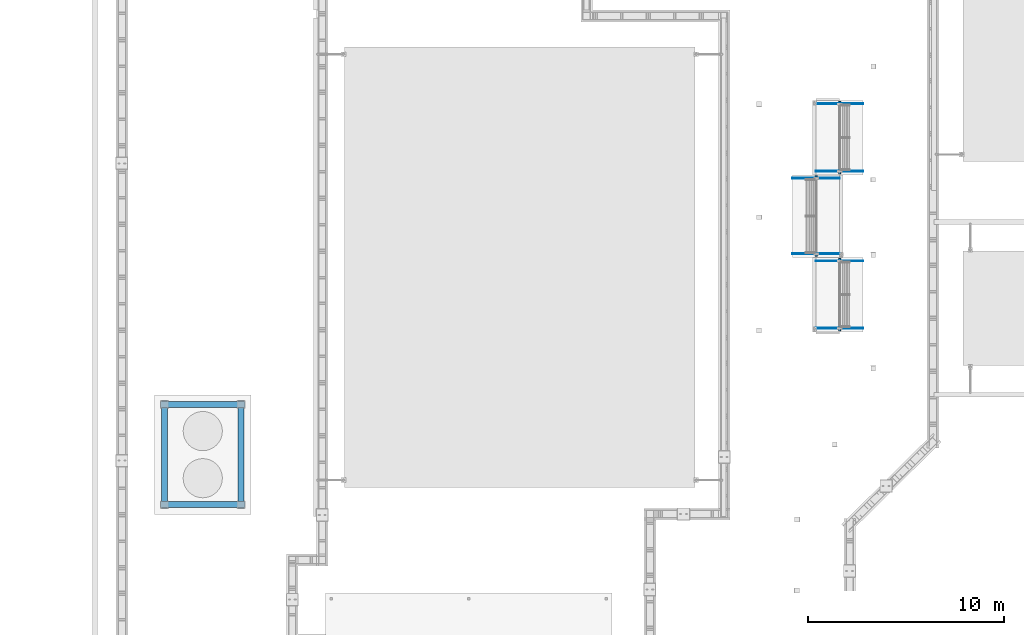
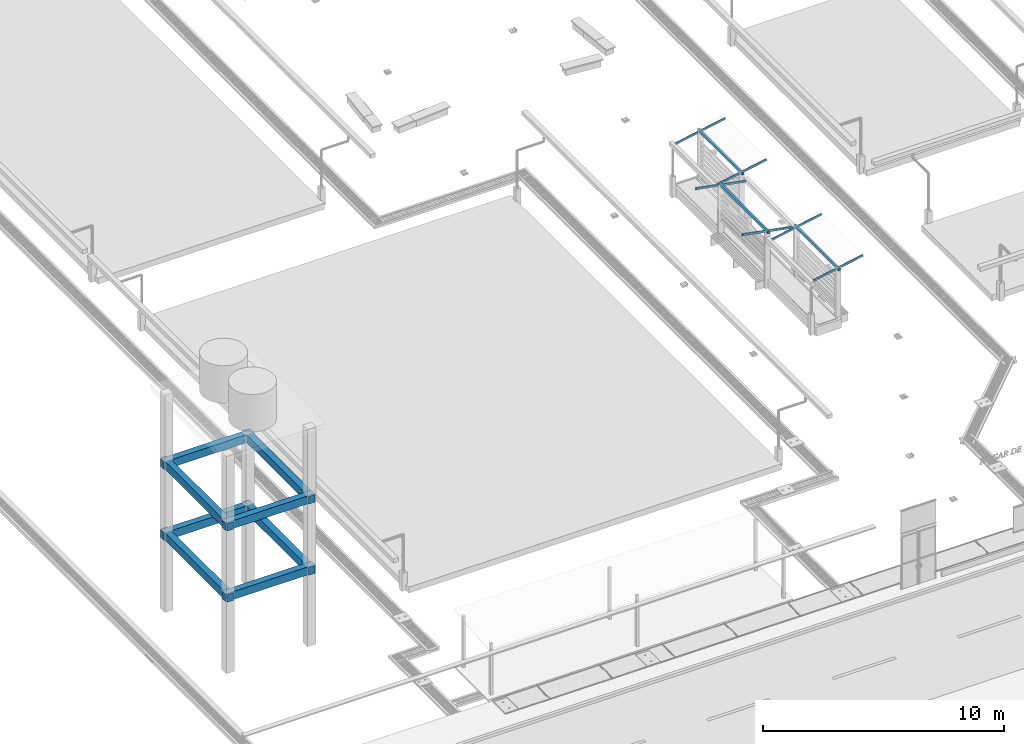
# One storey, part 9 of 90: 17 beams.
"""IFC2X3 building model written with IfcOpenShell, lengths in metres."""

import ifcopenshell
import ifcopenshell.guid

model = None  # the IFC model being written
_history = None  # IfcOwnerHistory: only IFC2X3 demands one
_inside = {}  # id of a spatial element -> (the spatial element, [elements in it])
_under = {}  # id of a project, library or spatial element -> (it, [spatial elements below it])
_declared = {}  # id of a project -> (the project, [libraries it declares])
_typed = {}  # id of a type object -> (the type object, [elements of that type])
_made_of = {}  # id of a material, layer set ... -> (it, [elements and type objects made of it])


def new_model(schema):
    """Start an empty IFC model of exactly this schema.

    Asked for "IFC4X3", IfcOpenShell would pick the latest addendum, in which some entities
    have other attributes; the version numbers below select the first issue.
    IFC2X3 requires an IfcOwnerHistory on every rooted entity: one is made here for all.
    """
    global model, _history
    if schema == "IFC4X3":
        model = ifcopenshell.file(schema_version=(4, 3, 0, 0))
    else:
        model = ifcopenshell.file(schema=schema)
    _inside.clear()
    _under.clear()
    _declared.clear()
    _typed.clear()
    _made_of.clear()
    _history = None
    if model.schema == "IFC2X3":
        org = make("IfcOrganization", Name="unknown")
        user = make(
            "IfcPersonAndOrganization",
            ThePerson=make("IfcPerson", FamilyName="unknown"),
            TheOrganization=org,
        )
        app = make(
            "IfcApplication",
            ApplicationDeveloper=org,
            Version="unknown",
            ApplicationFullName="unknown",
            ApplicationIdentifier="unknown",
        )
        _history = make(
            "IfcOwnerHistory",
            OwningUser=user,
            OwningApplication=app,
            ChangeAction="ADDED",
            CreationDate=0,
        )
    return model


def make(cls, **values):
    """One entity of the class cls with the attributes given. An attribute that is None is left unset."""
    return model.create_entity(
        cls, **{name: value for name, value in values.items() if value is not None}
    )


def rooted(cls, **values):
    """An entity with a GlobalId (a new one), such as an element, a storey or a relation."""
    return make(cls, GlobalId=ifcopenshell.guid.new(), OwnerHistory=_history, **values)


def si_unit(unit_type, name, prefix=None):
    """IfcSIUnit, for example si_unit("LENGTHUNIT", "METRE", prefix="MILLI")."""
    return make("IfcSIUnit", UnitType=unit_type, Prefix=prefix, Name=name)


def assignment(units):
    """IfcUnitAssignment: the units of a project."""
    return None if units is None else make("IfcUnitAssignment", Units=units)


def point(xyz):
    """IfcCartesianPoint."""
    return None if xyz is None else make("IfcCartesianPoint", Coordinates=xyz)


def direction(xyz):
    """IfcDirection."""
    return None if xyz is None else make("IfcDirection", DirectionRatios=xyz)


def frame(location, z_axis=None, x_axis=None):
    """IfcAxis2Placement3D, a coordinate frame: its origin and axes. An axis left out is left unset."""
    return make(
        "IfcAxis2Placement3D",
        Location=point(location),
        Axis=direction(z_axis),
        RefDirection=direction(x_axis),
    )


def origin():
    """The frame at (0, 0, 0) with its axes left unset."""
    return frame((0.0, 0.0, 0.0))


def origin_with_axes():
    """The frame at (0, 0, 0) with the z axis (0, 0, 1) and the x axis (1, 0, 0) written out."""
    return frame((0.0, 0.0, 0.0), z_axis=(0.0, 0.0, 1.0), x_axis=(1.0, 0.0, 0.0))


def place(relative_to, where):
    """IfcLocalPlacement: puts the frame where relative to a parent placement (None: the world)."""
    return make(
        "IfcLocalPlacement", PlacementRelTo=relative_to, RelativePlacement=where
    )


def context(
    kind, dimensions, precision=None, world=None, true_north=None, identifier=None
):
    """IfcGeometricRepresentationContext, for example the 3D "Model" context."""
    return make(
        "IfcGeometricRepresentationContext",
        ContextIdentifier=identifier,
        ContextType=kind,
        CoordinateSpaceDimension=dimensions,
        Precision=precision,
        WorldCoordinateSystem=world,
        TrueNorth=true_north,
    )


def subcontext(parent, identifier, kind, view, scale=None):
    """IfcGeometricRepresentationSubContext, for example "Body" below "Model"."""
    return make(
        "IfcGeometricRepresentationSubContext",
        ContextIdentifier=identifier,
        ContextType=kind,
        ParentContext=parent,
        TargetScale=scale,
        TargetView=view,
    )


def project(units=None, contexts=None):
    """IfcProject with its units and contexts."""
    return rooted(
        "IfcProject",
        Name="project",
        RepresentationContexts=contexts,
        UnitsInContext=assignment(units),
    )


def spatial(cls, under=None, at=None, **own):
    """A site, building, storey or space (cls), placed at a placement, below another one or the project."""
    s = rooted(cls, ObjectPlacement=at, **own)
    if under is not None:
        _under.setdefault(under.id(), (under, []))[1].append(s)
    return s


def faces_of(points, faces, orient=None, outer=None):
    """IfcFace entities. A face is a list of loops; a loop is a list of indices into points, from 0.

    orient and outer hold one flag for each loop. By default every Orientation is true, the
    first loop of a face is its IfcFaceOuterBound and the others are IfcFaceBound.
    """
    made = []
    for i, loops in enumerate(faces):
        bounds = []
        for j, loop in enumerate(loops):
            is_outer = j == 0 if outer is None else outer[i][j]
            bounds.append(
                make(
                    "IfcFaceOuterBound" if is_outer else "IfcFaceBound",
                    Bound=make("IfcPolyLoop", Polygon=[points[k] for k in loop]),
                    Orientation=True if orient is None else orient[i][j],
                )
            )
        made.append(make("IfcFace", Bounds=bounds))
    return made


def faceted_brep(points, faces, orient=None, outer=None, voids=None):
    """IfcFacetedBrep: a solid bounded by flat faces; with voids (closed shells), ...WithVoids."""
    shared = [point(p) for p in points]
    hull = make("IfcClosedShell", CfsFaces=faces_of(shared, faces, orient, outer))
    if voids is None:
        return make("IfcFacetedBrep", Outer=hull)
    return make(
        "IfcFacetedBrepWithVoids",
        Outer=hull,
        Voids=[
            make(cls, CfsFaces=faces_of(shared, fs, o, b)) for cls, fs, o, b in voids
        ],
    )


def shape(context_of_items, identifier, shape_type, items):
    """IfcShapeRepresentation: the items that make up one representation, for example the "Body"."""
    return make(
        "IfcShapeRepresentation",
        ContextOfItems=context_of_items,
        RepresentationIdentifier=identifier,
        RepresentationType=shape_type,
        Items=items,
    )


def made_of(thing, what):
    """Note that an element or type object is made of a material, layer set ...; save() writes the relation."""
    if what is not None:
        _made_of.setdefault(what.id(), (what, []))[1].append(thing)
    return thing


def element(
    cls,
    number,
    at=None,
    inside=None,
    cuts=None,
    type_object=None,
    material=None,
    context=None,
    identifier="Body",
    shape_type=None,
    held_by="IfcProductDefinitionShape",
    body=None,
    shapes=None,
    **own,
):
    """One element of the class cls, such as IfcWall. Its Tag is "e" and its number.

    at: its placement. inside: the storey or other place that contains it. cuts: it is an
    opening in that element (IfcRelVoidsElement). A single representation is given by context,
    identifier, shape_type and body (its items); several are given by shapes. held_by: the class
    of the entity that holds the representations. save() writes the other relations.
    """
    e = rooted(cls, Tag="e%d" % number, ObjectPlacement=at, **own)
    if body is not None:
        shapes = [shape(context, identifier, shape_type, body)]
    if shapes is not None:
        e.Representation = make(held_by, Representations=shapes)
    if inside is not None:
        _inside.setdefault(inside.id(), (inside, []))[1].append(e)
    if cuts is not None:
        rooted(
            "IfcRelVoidsElement", RelatingBuildingElement=cuts, RelatedOpeningElement=e
        )
    if type_object is not None:
        _typed.setdefault(type_object.id(), (type_object, []))[1].append(e)
    return made_of(e, material)


def aggregate(whole, parts):
    """IfcRelAggregates: a whole, such as a stair, and the parts it consists of."""
    return rooted("IfcRelAggregates", RelatingObject=whole, RelatedObjects=parts)


def save(model, path):
    """Write the relations noted so far, then the file.

    IfcRelAggregates (storeys below a building ...), IfcRelContainedInSpatialStructure (elements
    in a storey), IfcRelDefinesByType, IfcRelAssociatesMaterial and IfcRelDeclares: one each for
    every whole, place, type object, material and project.
    """
    for whole, parts in _under.values():
        aggregate(whole, parts)
    for where, things in _inside.values():
        rooted(
            "IfcRelContainedInSpatialStructure",
            RelatedElements=things,
            RelatingStructure=where,
        )
    for kind, things in _typed.values():
        rooted("IfcRelDefinesByType", RelatedObjects=things, RelatingType=kind)
    for what, things in _made_of.values():
        rooted("IfcRelAssociatesMaterial", RelatedObjects=things, RelatingMaterial=what)
    for by, libraries in _declared.values():
        rooted("IfcRelDeclares", RelatingContext=by, RelatedDefinitions=libraries)
    model.write(path)


model = new_model("IFC2X3")

# Units and contexts
model_context = context("Model", 3, precision=1e-05, world=origin_with_axes())
body_context = subcontext(model_context, "Body", "Model", "MODEL_VIEW")
ifc_project = project(units=[si_unit("LENGTHUNIT", "METRE"), si_unit("AREAUNIT", "SQUARE_METRE"), si_unit("VOLUMEUNIT", "CUBIC_METRE"), si_unit("PLANEANGLEUNIT", "RADIAN")], contexts=[model_context])

# Site, building, storey
site_placement = place(None, origin_with_axes())
site = spatial("IfcSite", under=ifc_project, at=site_placement, Name="Predio Los Mangos - Morales, San Martín", CompositionType="ELEMENT")
building_placement = place(site_placement, origin())
building = spatial("IfcBuilding", under=site, at=building_placement, Name="Hogar de Refugio Temporal", CompositionType="ELEMENT")
storey_placement = place(building_placement, origin())
storey = spatial("IfcBuildingStorey", under=building, at=storey_placement, Name="NIVEL 1 (NPT +0.00)", CompositionType="ELEMENT", Elevation=0.0)

# Beams
beam_1_placement = place(storey_placement, origin())
element("IfcBeam", 1, at=beam_1_placement, inside=storey, Name="tanque_viga", ObjectType="Viga", context=body_context, shape_type="Brep", body=[
    faceted_brep([(4.4, 25.25, 3.6), (4.4, 25.55, 3.6), (8.7, 25.55, 3.6), (8.7, 25.25, 3.6), (4.4, 25.25, 4.0), (8.7, 25.25, 4.0), (8.7, 25.55, 4.0), (4.4, 25.55, 4.0)], [[[0, 1, 2, 3]], [[4, 5, 6, 7]], [[0, 3, 5, 4]], [[3, 2, 6, 5]], [[2, 1, 7, 6]], [[1, 0, 4, 7]]]),
])
beam_2_placement = place(storey_placement, origin())
element("IfcBeam", 2, at=beam_2_placement, inside=storey, Name="tanque_viga", ObjectType="Viga", context=body_context, shape_type="Brep", body=[
    faceted_brep([(4.4, 30.35, 3.6), (4.4, 30.65, 3.6), (8.7, 30.65, 3.6), (8.7, 30.35, 3.6), (4.4, 30.35, 4.0), (8.7, 30.35, 4.0), (8.7, 30.65, 4.0), (4.4, 30.65, 4.0)], [[[0, 1, 2, 3]], [[4, 5, 6, 7]], [[0, 3, 5, 4]], [[3, 2, 6, 5]], [[2, 1, 7, 6]], [[1, 0, 4, 7]]]),
])
beam_3_placement = place(storey_placement, origin())
element("IfcBeam", 3, at=beam_3_placement, inside=storey, Name="tanque_viga", ObjectType="Viga", context=body_context, shape_type="Brep", body=[
    faceted_brep([(4.45, 25.2, 3.6), (4.45, 30.7, 3.6), (4.75, 30.7, 3.6), (4.75, 25.2, 3.6), (4.45, 25.2, 4.0), (4.75, 25.2, 4.0), (4.75, 30.7, 4.0), (4.45, 30.7, 4.0)], [[[0, 1, 2, 3]], [[4, 5, 6, 7]], [[0, 3, 5, 4]], [[3, 2, 6, 5]], [[2, 1, 7, 6]], [[1, 0, 4, 7]]]),
])
beam_4_placement = place(storey_placement, origin())
element("IfcBeam", 4, at=beam_4_placement, inside=storey, Name="tanque_viga", ObjectType="Viga", context=body_context, shape_type="Brep", body=[
    faceted_brep([(8.35, 25.2, 3.6), (8.35, 30.7, 3.6), (8.65, 30.7, 3.6), (8.65, 25.2, 3.6), (8.35, 25.2, 4.0), (8.65, 25.2, 4.0), (8.65, 30.7, 4.0), (8.35, 30.7, 4.0)], [[[0, 1, 2, 3]], [[4, 5, 6, 7]], [[0, 3, 5, 4]], [[3, 2, 6, 5]], [[2, 1, 7, 6]], [[1, 0, 4, 7]]]),
])
beam_5_placement = place(storey_placement, origin())
element("IfcBeam", 5, at=beam_5_placement, inside=storey, Name="tanque_viga", ObjectType="Viga", context=body_context, shape_type="Brep", body=[
    faceted_brep([(4.4, 25.25, 7.2), (4.4, 25.55, 7.2), (8.7, 25.55, 7.2), (8.7, 25.25, 7.2), (4.4, 25.25, 7.6), (8.7, 25.25, 7.6), (8.7, 25.55, 7.6), (4.4, 25.55, 7.6)], [[[0, 1, 2, 3]], [[4, 5, 6, 7]], [[0, 3, 5, 4]], [[3, 2, 6, 5]], [[2, 1, 7, 6]], [[1, 0, 4, 7]]]),
])
beam_6_placement = place(storey_placement, origin())
element("IfcBeam", 6, at=beam_6_placement, inside=storey, Name="tanque_viga", ObjectType="Viga", context=body_context, shape_type="Brep", body=[
    faceted_brep([(4.4, 30.35, 7.2), (4.4, 30.65, 7.2), (8.7, 30.65, 7.2), (8.7, 30.35, 7.2), (4.4, 30.35, 7.6), (8.7, 30.35, 7.6), (8.7, 30.65, 7.6), (4.4, 30.65, 7.6)], [[[0, 1, 2, 3]], [[4, 5, 6, 7]], [[0, 3, 5, 4]], [[3, 2, 6, 5]], [[2, 1, 7, 6]], [[1, 0, 4, 7]]]),
])
beam_7_placement = place(storey_placement, origin())
element("IfcBeam", 7, at=beam_7_placement, inside=storey, Name="tanque_viga", ObjectType="Viga", context=body_context, shape_type="Brep", body=[
    faceted_brep([(4.45, 25.2, 7.2), (4.45, 30.7, 7.2), (4.75, 30.7, 7.2), (4.75, 25.2, 7.2), (4.45, 25.2, 7.6), (4.75, 25.2, 7.6), (4.75, 30.7, 7.6), (4.45, 30.7, 7.6)], [[[0, 1, 2, 3]], [[4, 5, 6, 7]], [[0, 3, 5, 4]], [[3, 2, 6, 5]], [[2, 1, 7, 6]], [[1, 0, 4, 7]]]),
])
beam_8_placement = place(storey_placement, origin())
element("IfcBeam", 8, at=beam_8_placement, inside=storey, Name="tanque_viga", ObjectType="Viga", context=body_context, shape_type="Brep", body=[
    faceted_brep([(8.35, 25.2, 7.2), (8.35, 30.7, 7.2), (8.65, 30.7, 7.2), (8.65, 25.2, 7.2), (8.35, 25.2, 7.6), (8.65, 25.2, 7.6), (8.65, 30.7, 7.6), (8.35, 30.7, 7.6)], [[[0, 1, 2, 3]], [[4, 5, 6, 7]], [[0, 3, 5, 4]], [[3, 2, 6, 5]], [[2, 1, 7, 6]], [[1, 0, 4, 7]]]),
])
beam_9_placement = place(storey_placement, origin())
element("IfcBeam", 9, at=beam_9_placement, inside=storey, Name="oc01_viga", ObjectType="Viga", context=body_context, shape_type="Brep", body=[
    faceted_brep([(39.05, 34.255, 2.81), (38.95, 34.255, 2.81), (38.95, 37.945, 2.81), (39.05, 37.945, 2.81), (39.05, 34.255, 2.93), (39.05, 37.945, 2.93), (38.95, 37.945, 2.93), (38.95, 34.255, 2.93)], [[[0, 1, 2, 3]], [[4, 5, 6, 7]], [[0, 3, 5, 4]], [[3, 2, 6, 5]], [[2, 1, 7, 6]], [[1, 0, 4, 7]]]),
])
beam_10_placement = place(storey_placement, origin())
element("IfcBeam", 10, at=beam_10_placement, inside=storey, Name="oc01_correa", ObjectType="Viga", context=body_context, shape_type="Brep", body=[
    faceted_brep([(37.8094, 34.36, 2.5909), (37.8094, 34.41, 2.5909), (40.2094, 34.41, 3.0509), (40.2094, 34.36, 3.0509), (37.7906, 34.36, 2.6891), (40.1906, 34.36, 3.1491), (40.1906, 34.41, 3.1491), (37.7906, 34.41, 2.6891)], [[[0, 1, 2, 3]], [[4, 5, 6, 7]], [[0, 3, 5, 4]], [[3, 2, 6, 5]], [[2, 1, 7, 6]], [[1, 0, 4, 7]]]),
])
beam_11_placement = place(storey_placement, origin())
element("IfcBeam", 11, at=beam_11_placement, inside=storey, Name="oc01_correa", ObjectType="Viga", context=body_context, shape_type="Brep", body=[
    faceted_brep([(37.8094, 37.79, 2.5909), (37.8094, 37.84, 2.5909), (40.2094, 37.84, 3.0509), (40.2094, 37.79, 3.0509), (37.7906, 37.79, 2.6891), (40.1906, 37.79, 3.1491), (40.1906, 37.84, 3.1491), (37.7906, 37.84, 2.6891)], [[[0, 1, 2, 3]], [[4, 5, 6, 7]], [[0, 3, 5, 4]], [[3, 2, 6, 5]], [[2, 1, 7, 6]], [[1, 0, 4, 7]]]),
])
beam_12_placement = place(storey_placement, origin())
element("IfcBeam", 12, at=beam_12_placement, inside=storey, Name="oc01_viga", ObjectType="Viga", context=body_context, shape_type="Brep", body=[
    faceted_brep([(37.85, 38.045, 2.81), (37.75, 38.045, 2.81), (37.75, 42.155, 2.81), (37.85, 42.155, 2.81), (37.85, 38.045, 2.93), (37.85, 42.155, 2.93), (37.75, 42.155, 2.93), (37.75, 38.045, 2.93)], [[[0, 1, 2, 3]], [[4, 5, 6, 7]], [[0, 3, 5, 4]], [[3, 2, 6, 5]], [[2, 1, 7, 6]], [[1, 0, 4, 7]]]),
])
beam_13_placement = place(storey_placement, origin())
element("IfcBeam", 13, at=beam_13_placement, inside=storey, Name="oc01_correa", ObjectType="Viga", context=body_context, shape_type="Brep", body=[
    faceted_brep([(38.9906, 38.2, 2.5909), (38.9906, 38.15, 2.5909), (36.5906, 38.15, 3.0509), (36.5906, 38.2, 3.0509), (39.0094, 38.2, 2.6891), (36.6094, 38.2, 3.1491), (36.6094, 38.15, 3.1491), (39.0094, 38.15, 2.6891)], [[[0, 1, 2, 3]], [[4, 5, 6, 7]], [[0, 3, 5, 4]], [[3, 2, 6, 5]], [[2, 1, 7, 6]], [[1, 0, 4, 7]]]),
])
beam_14_placement = place(storey_placement, origin())
element("IfcBeam", 14, at=beam_14_placement, inside=storey, Name="oc01_correa", ObjectType="Viga", context=body_context, shape_type="Brep", body=[
    faceted_brep([(38.9906, 42.05, 2.5909), (38.9906, 42.0, 2.5909), (36.5906, 42.0, 3.0509), (36.5906, 42.05, 3.0509), (39.0094, 42.05, 2.6891), (36.6094, 42.05, 3.1491), (36.6094, 42.0, 3.1491), (39.0094, 42.0, 2.6891)], [[[0, 1, 2, 3]], [[4, 5, 6, 7]], [[0, 3, 5, 4]], [[3, 2, 6, 5]], [[2, 1, 7, 6]], [[1, 0, 4, 7]]]),
])
beam_15_placement = place(storey_placement, origin())
element("IfcBeam", 15, at=beam_15_placement, inside=storey, Name="oc01_viga", ObjectType="Viga", context=body_context, shape_type="Brep", body=[
    faceted_brep([(39.05, 42.255, 2.81), (38.95, 42.255, 2.81), (38.95, 45.945, 2.81), (39.05, 45.945, 2.81), (39.05, 42.255, 2.93), (39.05, 45.945, 2.93), (38.95, 45.945, 2.93), (38.95, 42.255, 2.93)], [[[0, 1, 2, 3]], [[4, 5, 6, 7]], [[0, 3, 5, 4]], [[3, 2, 6, 5]], [[2, 1, 7, 6]], [[1, 0, 4, 7]]]),
])
beam_16_placement = place(storey_placement, origin())
element("IfcBeam", 16, at=beam_16_placement, inside=storey, Name="oc01_correa", ObjectType="Viga", context=body_context, shape_type="Brep", body=[
    faceted_brep([(37.8094, 42.36, 2.5909), (37.8094, 42.41, 2.5909), (40.2094, 42.41, 3.0509), (40.2094, 42.36, 3.0509), (37.7906, 42.36, 2.6891), (40.1906, 42.36, 3.1491), (40.1906, 42.41, 3.1491), (37.7906, 42.41, 2.6891)], [[[0, 1, 2, 3]], [[4, 5, 6, 7]], [[0, 3, 5, 4]], [[3, 2, 6, 5]], [[2, 1, 7, 6]], [[1, 0, 4, 7]]]),
])
beam_17_placement = place(storey_placement, origin())
element("IfcBeam", 17, at=beam_17_placement, inside=storey, Name="oc01_correa", ObjectType="Viga", context=body_context, shape_type="Brep", body=[
    faceted_brep([(37.8094, 45.79, 2.5909), (37.8094, 45.84, 2.5909), (40.2094, 45.84, 3.0509), (40.2094, 45.79, 3.0509), (37.7906, 45.79, 2.6891), (40.1906, 45.79, 3.1491), (40.1906, 45.84, 3.1491), (37.7906, 45.84, 2.6891)], [[[0, 1, 2, 3]], [[4, 5, 6, 7]], [[0, 3, 5, 4]], [[3, 2, 6, 5]], [[2, 1, 7, 6]], [[1, 0, 4, 7]]]),
])

save(model, "model.ifc")
